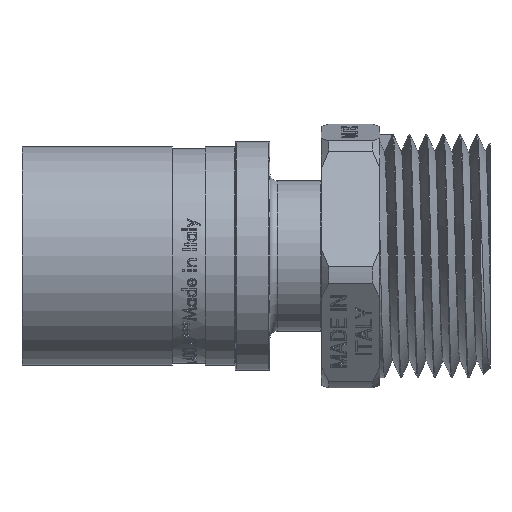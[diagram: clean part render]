
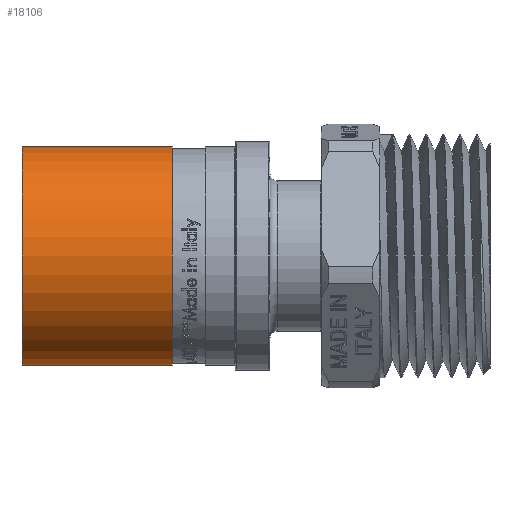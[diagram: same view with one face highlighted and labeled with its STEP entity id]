
A CAD part, front view. The second image highlights one B-rep face of the part: STEP entity #18106.
In plain terms, the highlighted cylindrical face has radius 14.925 mm (diameter 29.85 mm), a full revolution.
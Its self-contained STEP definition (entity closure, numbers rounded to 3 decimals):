
#1954=FACE_OUTER_BOUND('',#3025,.T.);
#3025=EDGE_LOOP('',(#16732,#16733,#16734,#16735,#16736,#16737));
#3357=CIRCLE('',#18959,14.925);
#3358=CIRCLE('',#18960,14.925);
#3359=CIRCLE('',#18962,14.925);
#3360=CIRCLE('',#18963,14.925);
#5749=LINE('',#39495,#7153);
#7153=VECTOR('',#22117,14.925);
#8861=VERTEX_POINT('',#39486);
#8862=VERTEX_POINT('',#39487);
#8863=VERTEX_POINT('',#39491);
#8864=VERTEX_POINT('',#39492);
#11518=EDGE_CURVE('',#8861,#8862,#3357,.T.);
#11519=EDGE_CURVE('',#8862,#8861,#3358,.T.);
#11520=EDGE_CURVE('',#8863,#8864,#3359,.T.);
#11521=EDGE_CURVE('',#8864,#8863,#3360,.T.);
#11522=EDGE_CURVE('',#8864,#8862,#5749,.T.);
#16732=ORIENTED_EDGE('',*,*,#11520,.F.);
#16733=ORIENTED_EDGE('',*,*,#11521,.F.);
#16734=ORIENTED_EDGE('',*,*,#11522,.T.);
#16735=ORIENTED_EDGE('',*,*,#11519,.T.);
#16736=ORIENTED_EDGE('',*,*,#11518,.T.);
#16737=ORIENTED_EDGE('',*,*,#11522,.F.);
#17163=CYLINDRICAL_SURFACE('',#18961,14.925);
#18106=ADVANCED_FACE('',(#1954),#17163,.T.);
#18959=AXIS2_PLACEMENT_3D('',#39488,#22107,#22108);
#18960=AXIS2_PLACEMENT_3D('',#39489,#22109,#22110);
#18961=AXIS2_PLACEMENT_3D('',#39490,#22111,#22112);
#18962=AXIS2_PLACEMENT_3D('',#39493,#22113,#22114);
#18963=AXIS2_PLACEMENT_3D('',#39494,#22115,#22116);
#22107=DIRECTION('center_axis',(1.,0.,0.));
#22108=DIRECTION('ref_axis',(0.,0.,-1.));
#22109=DIRECTION('center_axis',(1.,0.,0.));
#22110=DIRECTION('ref_axis',(0.,0.,-1.));
#22111=DIRECTION('center_axis',(1.,0.,0.));
#22112=DIRECTION('ref_axis',(0.,1.,0.));
#22113=DIRECTION('center_axis',(1.,0.,0.));
#22114=DIRECTION('ref_axis',(0.,0.,-1.));
#22115=DIRECTION('center_axis',(1.,0.,0.));
#22116=DIRECTION('ref_axis',(0.,0.,-1.));
#22117=DIRECTION('',(-1.,0.,0.));
#39486=CARTESIAN_POINT('',(-23.112,14.925,0.));
#39487=CARTESIAN_POINT('',(-23.112,-14.925,0.));
#39488=CARTESIAN_POINT('Origin',(-23.112,0.,0.));
#39489=CARTESIAN_POINT('Origin',(-23.112,0.,0.));
#39490=CARTESIAN_POINT('Origin',(-12.862,0.,0.));
#39491=CARTESIAN_POINT('',(-2.612,14.925,0.));
#39492=CARTESIAN_POINT('',(-2.612,-14.925,0.));
#39493=CARTESIAN_POINT('Origin',(-2.612,0.,0.));
#39494=CARTESIAN_POINT('Origin',(-2.612,0.,0.));
#39495=CARTESIAN_POINT('',(-12.862,-14.925,0.));
